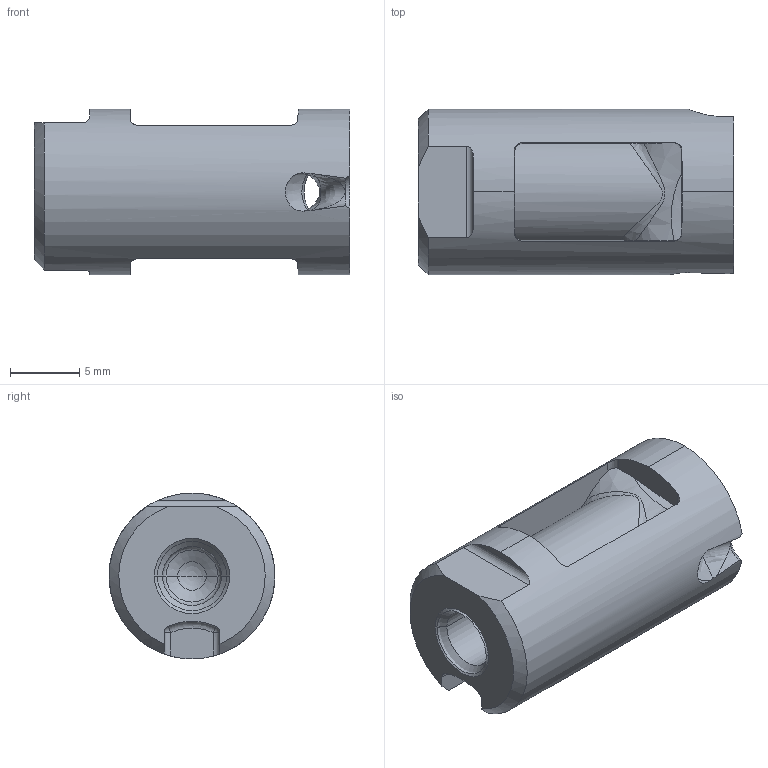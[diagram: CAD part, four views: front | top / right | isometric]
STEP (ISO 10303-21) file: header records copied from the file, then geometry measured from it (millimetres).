
FILE_DESCRIPTION((''),'2;1');
FILE_NAME('TGR12-20-S1','2004-03-24T',('tmeister'),(''),'PRO/ENGINEER BY PARAMETRIC TECHNOLOGY CORPORATION, 2002270','PRO/ENGINEER BY PARAMETRIC TECHNOLOGY CORPORATION, 2002270','');
FILE_SCHEMA(('CONFIG_CONTROL_DESIGN'));
Length unit declared in the file: millimetre
Products named in the file (1): TGR12-20-S1
Bounding box: 22.8 x 12 x 12 mm (x, y, z)
Volume: 1818.7 mm3; surface area: 1724.8 mm2
Topology: 1 solids, 2 shells, 74 faces, 267 edges, 194 vertices
Faces by surface type: plane 19, cylinder 18, cone 15, bspline 14, sphere 5, torus 3
Entity records: 5178 total; most frequent: CARTESIAN_POINT 3270, ORIENTED_EDGE 388, DIRECTION 298, EDGE_CURVE 196, B_SPLINE_CURVE_WITH_KNOTS 135, VERTEX_POINT 125, AXIS2_PLACEMENT_3D 108, VECTOR 82
